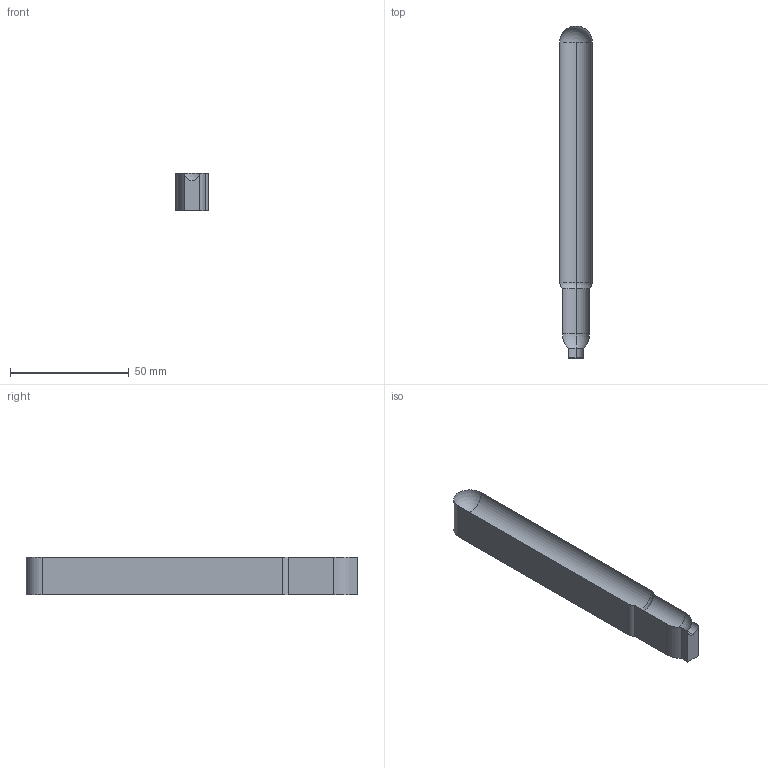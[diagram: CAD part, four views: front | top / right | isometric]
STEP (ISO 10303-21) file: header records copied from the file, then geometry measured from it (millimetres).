
FILE_DESCRIPTION (( 'STEP AP203' ), '1' );
FILE_NAME ('Sharpie_groove_only.STEP', '2017-08-31T15:50:31', ( '' ), ( '' ), 'SwSTEP 2.0', 'SolidWorks 2015', '' );
FILE_SCHEMA (( 'CONFIG_CONTROL_DESIGN' ));
Length unit declared in the file: inch
Products named in the file (1): Sharpie_groove_only
Bounding box: 13.72 x 139.7 x 15.88 mm (x, y, z)
Volume: 19282.6 mm3; surface area: 9345.8 mm2
Topology: 1 solids, 1 shells, 24 faces, 53 edges, 30 vertices
Faces by surface type: cylinder 11, plane 8, torus 4, sphere 1
Entity records: 727 total; most frequent: DIRECTION 126, CARTESIAN_POINT 107, ORIENTED_EDGE 104, EDGE_CURVE 52, AXIS2_PLACEMENT_3D 49, VERTEX_POINT 30, LINE 28, VECTOR 28
